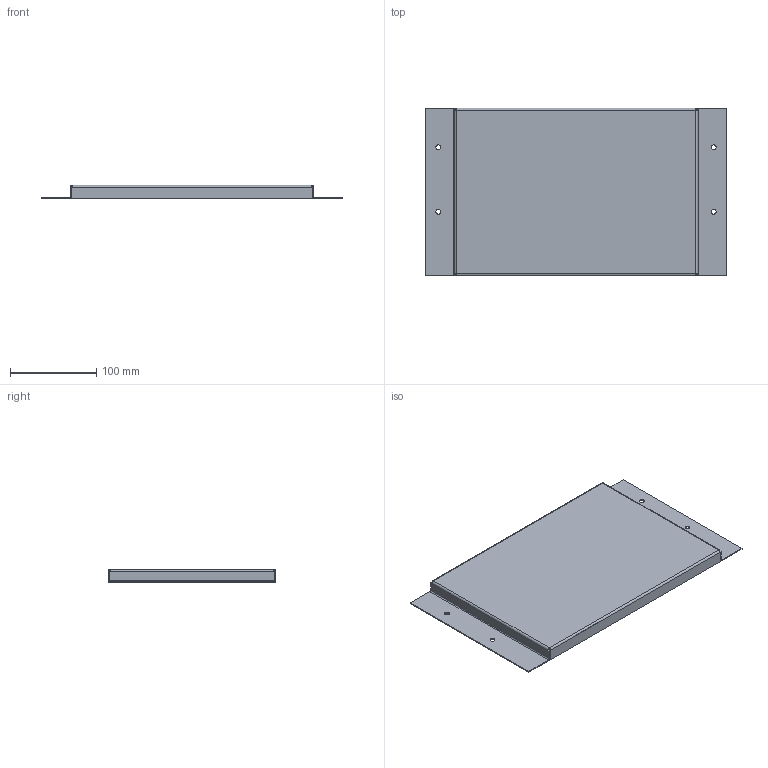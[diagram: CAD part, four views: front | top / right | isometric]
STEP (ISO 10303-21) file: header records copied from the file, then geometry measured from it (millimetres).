
FILE_DESCRIPTION (( 'STEP AP203' ), '1' );
FILE_NAME ('MB 20.35 Ïàíåëü ìîäóëüíàÿ.STEP', '2012-12-05T08:00:09', ( 'Àëåêñàíäð' ), ( 'Ïðîâåíòî' ), 'SwSTEP 2.0', 'SolidWorks 2012', '' );
FILE_SCHEMA (( 'CONFIG_CONTROL_DESIGN' ));
Length unit declared in the file: millimetre
Products named in the file (1): MB 20.35 Ïàíåëü ìîäóëüíàÿ
Bounding box: 350.6 x 195 x 15.6 mm (x, y, z)
Volume: 97072 mm3; surface area: 163338.8 mm2
Topology: 1 solids, 1 shells, 70 faces, 156 edges, 88 vertices
Faces by surface type: plane 50, cylinder 20
Entity records: 1969 total; most frequent: DIRECTION 338, CARTESIAN_POINT 315, ORIENTED_EDGE 312, EDGE_CURVE 156, VECTOR 116, LINE 116, AXIS2_PLACEMENT_3D 111, VERTEX_POINT 88
